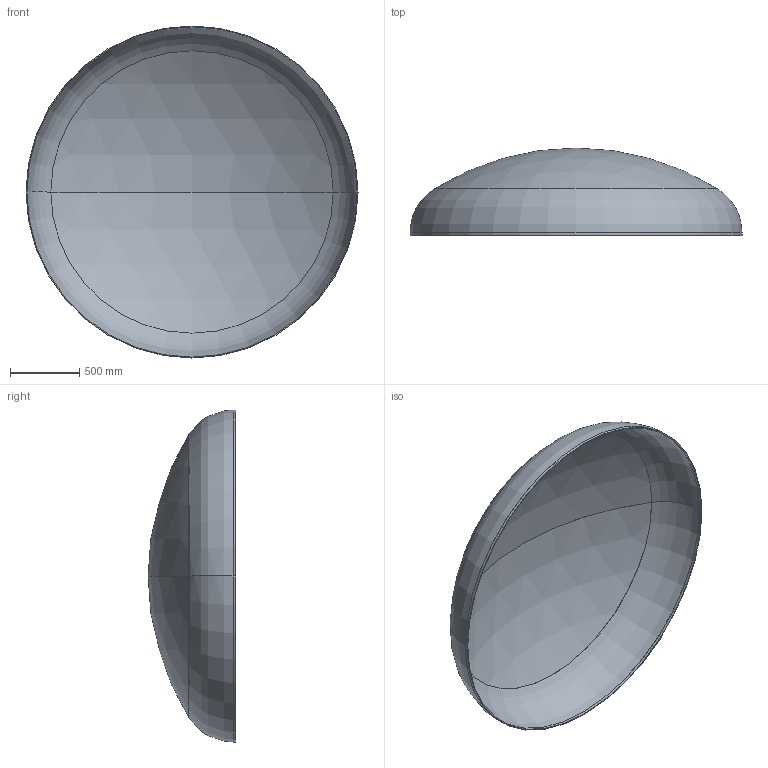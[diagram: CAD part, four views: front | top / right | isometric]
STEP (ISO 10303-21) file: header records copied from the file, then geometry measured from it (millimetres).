
FILE_DESCRIPTION (( 'STEP AP203' ), '1' );
FILE_NAME ('DIN 28013 Korbbogenform_-_Boden DIN 28013 - 2400 x 20 - I - s=6.step', '2016-07-01T15:02:12', ( '' ), ( '' ), 'SwSTEP 2.0', 'SolidWorks 2013', '' );
FILE_SCHEMA (( 'CONFIG_CONTROL_DESIGN' ));
Length unit declared in the file: millimetre
Products named in the file (1): DIN 28013 Korbbogenform_-_Boden DIN 28013 - 2400 x 20 - I - s=6
Bounding box: 2400 x 633.17 x 2400 mm (x, y, z)
Volume: 38382521.7 mm3; surface area: 12839369.9 mm2
Topology: 1 solids, 1 shells, 13 faces, 24 edges, 14 vertices
Faces by surface type: torus 4, cylinder 4, sphere 4, plane 1
Entity records: 407 total; most frequent: DIRECTION 72, CARTESIAN_POINT 52, ORIENTED_EDGE 48, AXIS2_PLACEMENT_3D 34, EDGE_CURVE 24, CIRCLE 20, VERTEX_POINT 14, EDGE_LOOP 14
